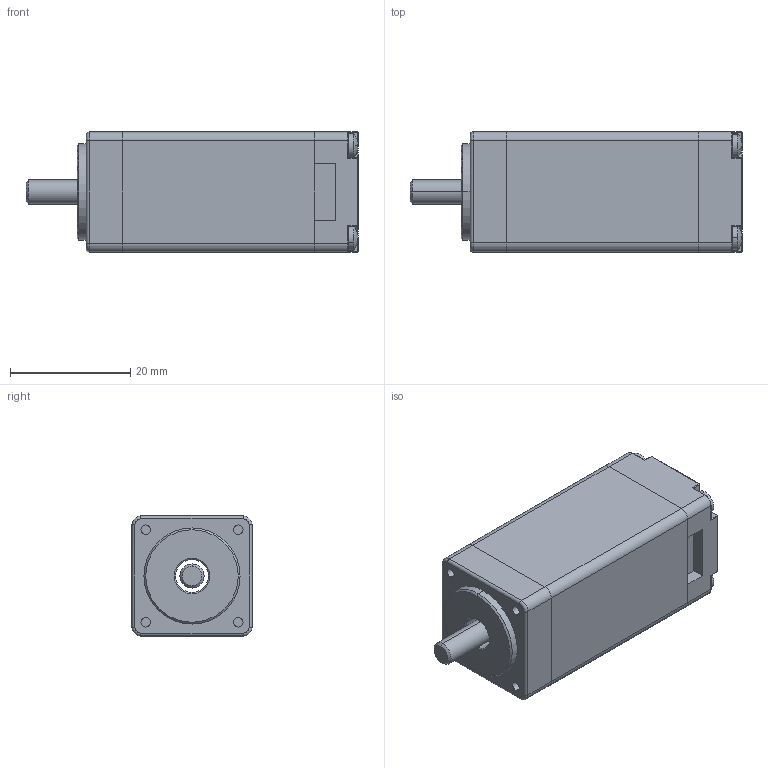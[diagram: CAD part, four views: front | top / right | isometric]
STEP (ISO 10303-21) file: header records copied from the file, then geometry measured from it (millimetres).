
FILE_DESCRIPTION (( 'STEP AP203' ), '1' );
FILE_NAME ('YK20HB45-01A.STEP', '2020-07-17T09:25:09', ( '' ), ( '' ), 'SwSTEP 2.0', 'SolidWorks 2016', '' );
FILE_SCHEMA (( 'CONFIG_CONTROL_DESIGN' ));
Length unit declared in the file: millimetre
Products named in the file (6): 20隅赽; cross recessed pan head screws gb_GB_CROSS_SCREWS_TYPE1 M2X20-20  H type-N; 蛌粣; YK20HB45-01A; 20綴裔; 20ヶ裔
Assembly tree (8 placements, depth 2):
  YK20HB45-01A
    20ヶ裔
    20隅赽
    20綴裔
    蛌粣
    cross recessed pan head screws gb_GB_CROSS_SCREWS_TYPE1 M2X20-20  H type-N  x4
Bounding box: 55.3 x 20 x 20 mm (x, y, z)
Volume: 13497 mm3; surface area: 10129.5 mm2
Topology: 8 solids, 8 shells, 281 faces, 696 edges, 432 vertices
Faces by surface type: cylinder 128, plane 109, torus 16, sphere 16, cone 12
Entity records: 6736 total; most frequent: DIRECTION 1118, CARTESIAN_POINT 1099, ORIENTED_EDGE 980, EDGE_CURVE 490, AXIS2_PLACEMENT_3D 439, VERTEX_POINT 300, EDGE_LOOP 242, VECTOR 240
